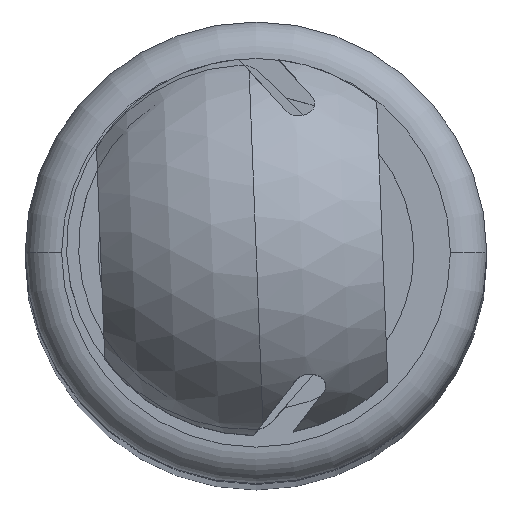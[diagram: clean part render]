
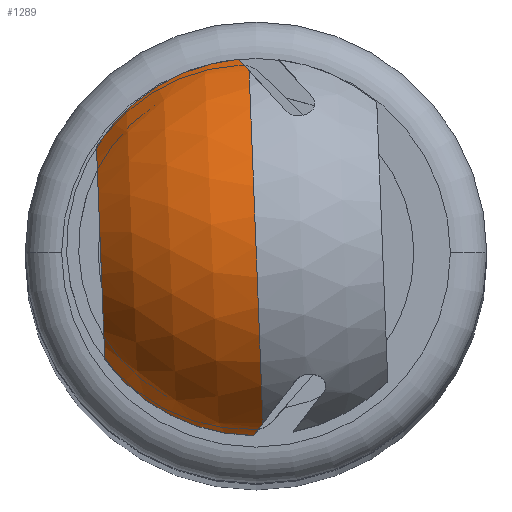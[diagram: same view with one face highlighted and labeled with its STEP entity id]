
A CAD part, top view. The second image highlights one B-rep face of the part: STEP entity #1289.
In plain terms, the highlighted spherical face has radius 8.25 mm.
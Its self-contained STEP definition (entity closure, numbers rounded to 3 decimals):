
#132 = EDGE_LOOP ( 'NONE', ( #240, #265, #263, #258, #214, #397, #255 ) ) ;
#214 = ORIENTED_EDGE ( 'NONE', *, *, #1096, .T. ) ;
#240 = ORIENTED_EDGE ( 'NONE', *, *, #991, .F. ) ;
#255 = ORIENTED_EDGE ( 'NONE', *, *, #1042, .T. ) ;
#258 = ORIENTED_EDGE ( 'NONE', *, *, #1226, .T. ) ;
#263 = ORIENTED_EDGE ( 'NONE', *, *, #1046, .T. ) ;
#265 = ORIENTED_EDGE ( 'NONE', *, *, #969, .T. ) ;
#397 = ORIENTED_EDGE ( 'NONE', *, *, #1087, .T. ) ;
#969 = EDGE_CURVE ( 'NONE', #3265, #3253, #1916, .T. ) ;
#991 = EDGE_CURVE ( 'NONE', #3265, #3073, #1888, .T. ) ;
#1042 = EDGE_CURVE ( 'NONE', #3275, #3073, #1854, .T. ) ;
#1046 = EDGE_CURVE ( 'NONE', #3253, #3104, #1949, .T. ) ;
#1087 = EDGE_CURVE ( 'NONE', #3291, #3275, #1526, .T. ) ;
#1096 = EDGE_CURVE ( 'NONE', #3192, #3291, #1559, .T. ) ;
#1226 = EDGE_CURVE ( 'NONE', #3104, #3192, #4008, .T. ) ;
#1289 = ADVANCED_FACE ( 'NONE', ( #4183 ), #4187, .T. ) ;
#1526 = CIRCLE ( 'NONE', #1548, 7.76 ) ;
#1548 = AXIS2_PLACEMENT_3D ( 'NONE', #2278, #2317, #2498 ) ;
#1556 = AXIS2_PLACEMENT_3D ( 'NONE', #2471, #2468, #2465 ) ;
#1559 = CIRCLE ( 'NONE', #1556, 5.206 ) ;
#1604 = AXIS2_PLACEMENT_3D ( 'NONE', #4328, #4318, #4499 ) ;
#1840 = AXIS2_PLACEMENT_3D ( 'NONE', #4816, #4823, #4824 ) ;
#1854 = CIRCLE ( 'NONE', #1840, 6.804 ) ;
#1887 = AXIS2_PLACEMENT_3D ( 'NONE', #4385, #4384, #4382 ) ;
#1888 = CIRCLE ( 'NONE', #1887, 8.25 ) ;
#1895 = AXIS2_PLACEMENT_3D ( 'NONE', #4531, #4530, #4526 ) ;
#1916 = CIRCLE ( 'NONE', #1895, 8.25 ) ;
#1949 = CIRCLE ( 'NONE', #1604, 6.804 ) ;
#2278 = CARTESIAN_POINT ( 'NONE',  ( -72.8, 0., 0. ) ) ;
#2317 = DIRECTION ( 'NONE',  ( -1., 0., 0. ) ) ;
#2465 = DIRECTION ( 'NONE',  ( 1., 0., 0. ) ) ;
#2468 = DIRECTION ( 'NONE',  ( 0., 0., -1. ) ) ;
#2471 = CARTESIAN_POINT ( 'NONE',  ( -70., 0., 6.4 ) ) ;
#2498 = DIRECTION ( 'NONE',  ( 0., 0., -1. ) ) ;
#2646 = DIRECTION ( 'NONE',  ( 0., 0., -1. ) ) ;
#2669 = CARTESIAN_POINT ( 'NONE',  ( -72.8, 0., 0. ) ) ;
#2679 = DIRECTION ( 'NONE',  ( -1., 0., 0. ) ) ;
#2927 = AXIS2_PLACEMENT_3D ( 'NONE', #3573, #3572, #3571 ) ;
#3073 = VERTEX_POINT ( 'NONE', #3545 ) ;
#3104 = VERTEX_POINT ( 'NONE', #3513 ) ;
#3192 = VERTEX_POINT ( 'NONE', #3453 ) ;
#3253 = VERTEX_POINT ( 'NONE', #3408 ) ;
#3265 = VERTEX_POINT ( 'NONE', #3398 ) ;
#3275 = VERTEX_POINT ( 'NONE', #3388 ) ;
#3291 = VERTEX_POINT ( 'NONE', #3375 ) ;
#3375 = CARTESIAN_POINT ( 'NONE',  ( -72.8, 4.389, 6.4 ) ) ;
#3388 = CARTESIAN_POINT ( 'NONE',  ( -72.8, 7.749, 0.412 ) ) ;
#3398 = CARTESIAN_POINT ( 'NONE',  ( -78.25, 0., 0. ) ) ;
#3408 = CARTESIAN_POINT ( 'NONE',  ( -73.921, -7.259, 0. ) ) ;
#3453 = CARTESIAN_POINT ( 'NONE',  ( -72.8, -4.389, 6.4 ) ) ;
#3513 = CARTESIAN_POINT ( 'NONE',  ( -72.8, -7.749, 0.412 ) ) ;
#3545 = CARTESIAN_POINT ( 'NONE',  ( -73.921, 7.259, 0. ) ) ;
#3571 = DIRECTION ( 'NONE',  ( 0., -1., 0. ) ) ;
#3572 = DIRECTION ( 'NONE',  ( 0., 0., -1. ) ) ;
#3573 = CARTESIAN_POINT ( 'NONE',  ( -70., 0., 0. ) ) ;
#4008 = CIRCLE ( 'NONE', #4011, 7.76 ) ;
#4011 = AXIS2_PLACEMENT_3D ( 'NONE', #2669, #2679, #2646 ) ;
#4183 = FACE_OUTER_BOUND ( 'NONE', #132, .T. ) ;
#4187 = SPHERICAL_SURFACE ( 'NONE', #2927, 8.25 ) ;
#4318 = DIRECTION ( 'NONE',  ( 0., 0.643, 0.766 ) ) ;
#4328 = CARTESIAN_POINT ( 'NONE',  ( -70., -2.999, -3.574 ) ) ;
#4382 = DIRECTION ( 'NONE',  ( -1., 0., 0. ) ) ;
#4384 = DIRECTION ( 'NONE',  ( 0., 0., -1. ) ) ;
#4385 = CARTESIAN_POINT ( 'NONE',  ( -70., 0., 0. ) ) ;
#4499 = DIRECTION ( 'NONE',  ( 0., -0.766, 0.643 ) ) ;
#4526 = DIRECTION ( 'NONE',  ( 1., 0., 0. ) ) ;
#4530 = DIRECTION ( 'NONE',  ( 0., 0., 1. ) ) ;
#4531 = CARTESIAN_POINT ( 'NONE',  ( -70., 0., 0. ) ) ;
#4816 = CARTESIAN_POINT ( 'NONE',  ( -70., 2.999, -3.574 ) ) ;
#4823 = DIRECTION ( 'NONE',  ( 0., -0.643, 0.766 ) ) ;
#4824 = DIRECTION ( 'NONE',  ( 0., -0.766, -0.643 ) ) ;
